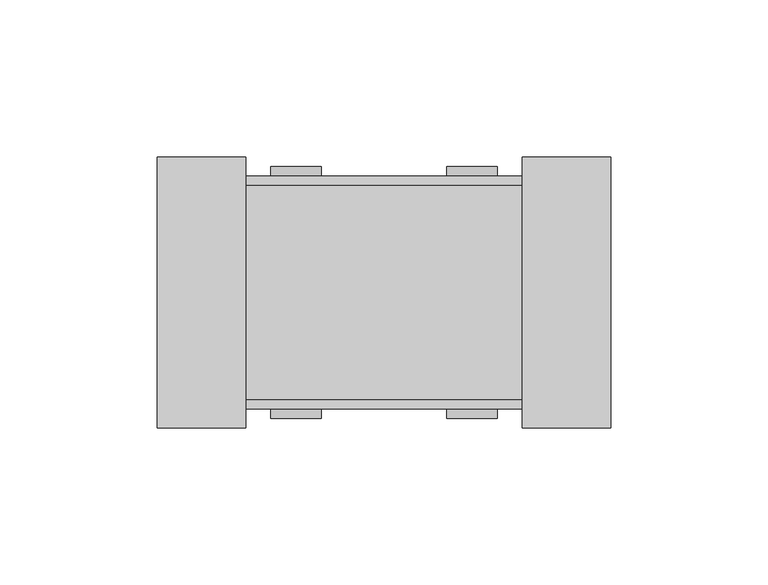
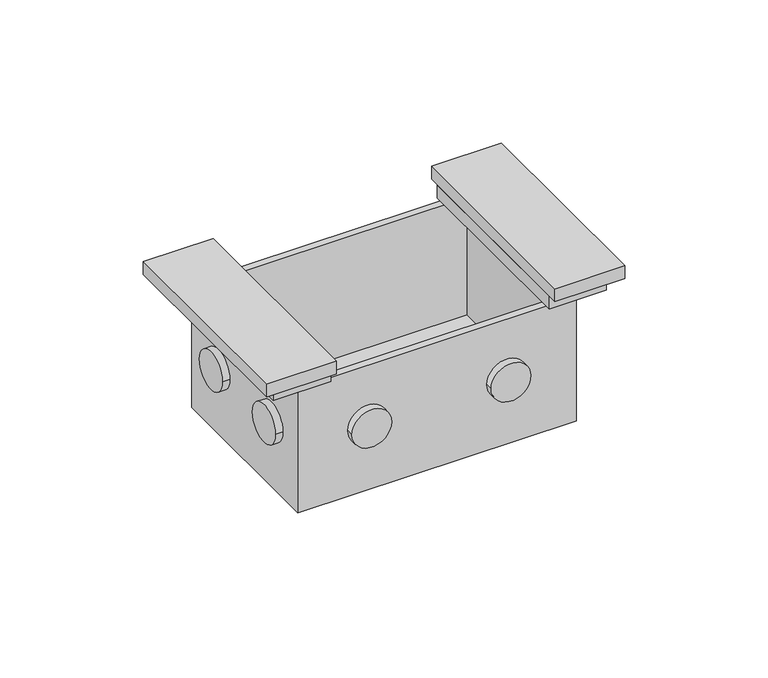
"""IFC4 building model written with IfcOpenShell, lengths in millimetres: proxy geometry, BT_LN-ScatolaIncasso50x_ConPlacca : Scatola da incasso 504E - 4M - Placca Optic."""

from ifc_helpers import new_model, si_unit, point, frame, frame_2d, origin, origin_with_axes, place, context, project, spatial, polyline, circle_curve, trimmed, segment, composite_curve, outline, extrude, faceted_brep, source, transform, mapped, element, save


def electrical_fixtures_71d92850(model_context):
    return source(origin(), model_context, "Body", "SolidModel", [
        extrude(outline(polyline([(44.0, -43.0), (44.0, 43.0), (72.0, 43.0), (72.0, -43.0), (44.0, -43.0)])), frame((0.0, 0.0, 5.5), z_axis=(0.0, 0.0, 1.0), x_axis=(1.0, 0.0, 0.0)), (0.0, 0.0, 1.0), 5.5),
        extrude(outline(polyline([(-72.0, -43.0), (-72.0, 43.0), (-44.0, 43.0), (-44.0, -43.0), (-72.0, -43.0)])), frame((0.0, 0.0, 5.5), z_axis=(0.0, 0.0, 1.0), x_axis=(1.0, 0.0, 0.0)), (0.0, 0.0, 1.0), 5.5),
        extrude(outline(polyline([(44.0, -39.0), (44.0, 39.0), (67.0, 39.0), (67.0, -39.0), (44.0, -39.0)])), origin_with_axes(), (0.0, 0.0, 1.0), 5.5),
        extrude(outline(polyline([(-44.0, 39.0), (-44.0, -39.0), (-67.0, -39.0), (-67.0, 39.0), (-44.0, 39.0)])), origin_with_axes(), (0.0, 0.0, 1.0), 5.5),
        extrude(outline(composite_curve([segment(trimmed(circle_curve(frame_2d((18.5, -25.0)), 8.0), [point((10.5, -25.0))], [point((26.5, -25.0))], False, "CARTESIAN"), True, "CONTINUOUS"), segment(trimmed(circle_curve(frame_2d((18.5, -25.0)), 8.0), [point((26.5, -25.0))], [point((10.5, -25.0))], False, "CARTESIAN"), True, "CONTINUOUS")], self_intersect=False)), frame((-59.0, 0.0, 0.0), z_axis=(1.0, 0.0, 0.0), x_axis=(0.0, 1.0, 0.0)), (0.0, 0.0, 1.0), 3.0),
        extrude(outline(composite_curve([segment(trimmed(circle_curve(frame_2d((-18.5, -25.0)), 8.0), [point((-26.5, -25.0))], [point((-10.5, -25.0))], False, "CARTESIAN"), True, "CONTINUOUS"), segment(trimmed(circle_curve(frame_2d((-18.5, -25.0)), 8.0), [point((-10.5, -25.0))], [point((-26.5, -25.0))], False, "CARTESIAN"), True, "CONTINUOUS")], self_intersect=False)), frame((-59.0, 0.0, 0.0), z_axis=(1.0, 0.0, 0.0), x_axis=(0.0, 1.0, 0.0)), (0.0, 0.0, 1.0), 3.0),
        extrude(outline(composite_curve([segment(trimmed(circle_curve(frame_2d((-25.0, -28.0)), 8.0), [point((-25.0, -36.0))], [point((-25.0, -20.0))], False, "CARTESIAN"), True, "CONTINUOUS"), segment(trimmed(circle_curve(frame_2d((-25.0, -28.0)), 8.0), [point((-25.0, -20.0))], [point((-25.0, -36.0))], False, "CARTESIAN"), True, "CONTINUOUS")], self_intersect=False)), frame((0.0, -40.0, 0.0), z_axis=(0.0, 1.0, 0.0), x_axis=(0.0, 0.0, 1.0)), (0.0, 0.0, 1.0), 3.0),
        extrude(outline(composite_curve([segment(trimmed(circle_curve(frame_2d((-25.0, 28.0)), 8.0), [point((-25.0, 20.0))], [point((-25.0, 36.0))], False, "CARTESIAN"), True, "CONTINUOUS"), segment(trimmed(circle_curve(frame_2d((-25.0, 28.0)), 8.0), [point((-25.0, 36.0))], [point((-25.0, 20.0))], False, "CARTESIAN"), True, "CONTINUOUS")], self_intersect=False)), frame((0.0, -40.0, 0.0), z_axis=(0.0, 1.0, 0.0), x_axis=(0.0, 0.0, 1.0)), (0.0, 0.0, 1.0), 3.0),
        extrude(outline(composite_curve([segment(trimmed(circle_curve(frame_2d((-18.5, -25.0)), 8.0), [point((-26.5, -25.0))], [point((-10.5, -25.0))], False, "CARTESIAN"), True, "CONTINUOUS"), segment(trimmed(circle_curve(frame_2d((-18.5, -25.0)), 8.0), [point((-10.5, -25.0))], [point((-26.5, -25.0))], False, "CARTESIAN"), True, "CONTINUOUS")], self_intersect=False)), frame((56.0, 0.0, 0.0), z_axis=(1.0, 0.0, 0.0), x_axis=(0.0, 1.0, 0.0)), (0.0, 0.0, 1.0), 3.0),
        extrude(outline(composite_curve([segment(trimmed(circle_curve(frame_2d((18.5, -25.0)), 8.0), [point((10.5, -25.0))], [point((26.5, -25.0))], False, "CARTESIAN"), True, "CONTINUOUS"), segment(trimmed(circle_curve(frame_2d((18.5, -25.0)), 8.0), [point((26.5, -25.0))], [point((10.5, -25.0))], False, "CARTESIAN"), True, "CONTINUOUS")], self_intersect=False)), frame((56.0, 0.0, 0.0), z_axis=(1.0, 0.0, 0.0), x_axis=(0.0, 1.0, 0.0)), (0.0, 0.0, 1.0), 3.0),
        extrude(outline(composite_curve([segment(trimmed(circle_curve(frame_2d((-25.0, -28.0)), 8.0), [point((-25.0, -36.0))], [point((-25.0, -20.0))], False, "CARTESIAN"), True, "CONTINUOUS"), segment(trimmed(circle_curve(frame_2d((-25.0, -28.0)), 8.0), [point((-25.0, -20.0))], [point((-25.0, -36.0))], False, "CARTESIAN"), True, "CONTINUOUS")], self_intersect=False)), frame((0.0, 37.0, 0.0), z_axis=(0.0, 1.0, 0.0), x_axis=(0.0, 0.0, 1.0)), (0.0, 0.0, 1.0), 3.0),
        extrude(outline(composite_curve([segment(trimmed(circle_curve(frame_2d((-25.0, 28.0)), 8.0), [point((-25.0, 20.0))], [point((-25.0, 36.0))], False, "CARTESIAN"), True, "CONTINUOUS"), segment(trimmed(circle_curve(frame_2d((-25.0, 28.0)), 8.0), [point((-25.0, 36.0))], [point((-25.0, 20.0))], False, "CARTESIAN"), True, "CONTINUOUS")], self_intersect=False)), frame((0.0, 37.0, 0.0), z_axis=(0.0, 1.0, 0.0), x_axis=(0.0, 0.0, 1.0)), (0.0, 0.0, 1.0), 3.0),
        faceted_brep([(-53.0, -34.0, -50.0), (53.0, -34.0, -50.0), (53.0, 34.0, -50.0), (-53.0, 34.0, -50.0), (-56.0, 37.0, -53.0), (56.0, 37.0, -53.0), (56.0, -37.0, -53.0), (-56.0, -37.0, -53.0), (-56.0, 37.0, 0.0), (-56.0, -37.0, 0.0), (56.0, -37.0, 0.0), (56.0, 37.0, 0.0), (53.0, -34.0, 0.0), (-53.0, -34.0, 0.0), (-53.0, 34.0, 0.0), (53.0, 34.0, 0.0)], [[[0, 1, 2, 3]], [[4, 5, 6, 7]], [[8, 9, 10, 11], [12, 13, 14, 15]], [[9, 8, 4, 7]], [[10, 9, 7, 6]], [[11, 10, 6, 5]], [[8, 11, 5, 4]], [[13, 12, 1, 0]], [[14, 13, 0, 3]], [[15, 14, 3, 2]], [[12, 15, 2, 1]]]),
    ])


if __name__ == "__main__":
    model = new_model("IFC4")
    model_context = context("Model", 3, world=origin())
    ifc_project = project(units=[si_unit("LENGTHUNIT", "METRE", prefix="MILLI")], contexts=[model_context])
    site = spatial("IfcSite", under=ifc_project)
    building = spatial("IfcBuilding", under=site)
    placement = place(None, origin())
    electrical_fixtures_shape = electrical_fixtures_71d92850(model_context)
    element("IfcBuildingElementProxy", 1, Name="BT_LN-ScatolaIncasso50x_ConPlacca : Scatola da incasso 504E - 4M - Placca Optic", ObjectType="BT_LN-ScatolaIncasso50x_ConPlacca : Scatola da incasso 504E - 4M - Placca Optic", at=placement, inside=building, context=model_context, shape_type="MappedRepresentation", body=[
        mapped(electrical_fixtures_shape, transform((0.0, 0.0, 0.0), x_axis=(1.0, 0.0, 0.0), y_axis=(0.0, 1.0, 0.0), z_axis=(0.0, 0.0, 1.0))),
    ])
    save(model, "model.ifc")
